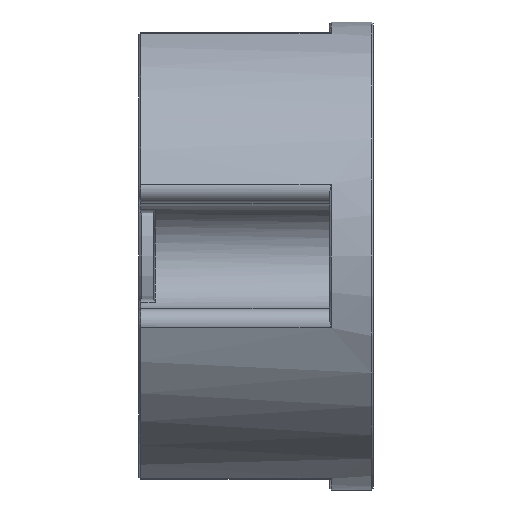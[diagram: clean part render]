
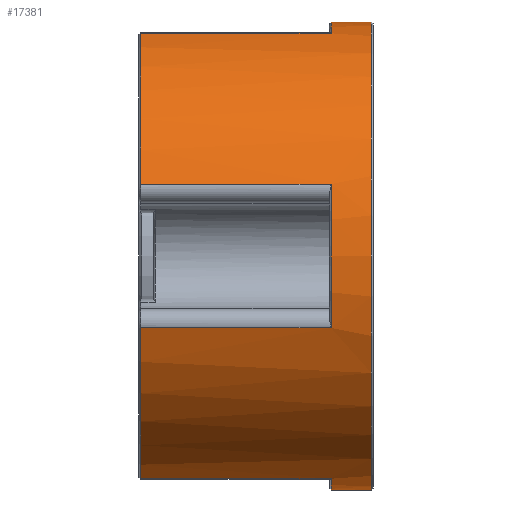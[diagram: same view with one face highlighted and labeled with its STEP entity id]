
A CAD part, left-side view. The second image highlights one B-rep face of the part: STEP entity #17381.
In plain terms, the highlighted cylindrical face has radius 15.975 mm (diameter 31.95 mm), a partial arc.
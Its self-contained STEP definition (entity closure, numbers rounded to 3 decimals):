
#93 = VERTEX_POINT ( 'NONE', #27016 ) ;
#316 = CIRCLE ( 'NONE', #7075, 15.975 ) ;
#610 = ORIENTED_EDGE ( 'NONE', *, *, #28228, .F. ) ;
#728 = CIRCLE ( 'NONE', #32794, 15.975 ) ;
#796 = CARTESIAN_POINT ( 'NONE',  ( 0., -5.125, 15.975 ) ) ;
#990 = ORIENTED_EDGE ( 'NONE', *, *, #17151, .T. ) ;
#1182 = ORIENTED_EDGE ( 'NONE', *, *, #19705, .T. ) ;
#1501 = EDGE_CURVE ( 'NONE', #18475, #11671, #19383, .T. ) ;
#1749 = VERTEX_POINT ( 'NONE', #796 ) ;
#1794 = EDGE_LOOP ( 'NONE', ( #610, #17061, #10400, #22756, #7771, #33290, #17009, #990, #1182, #13954, #4690, #29304 ) ) ;
#2724 = CARTESIAN_POINT ( 'NONE',  ( 0., 8., -15.975 ) ) ;
#2841 = DIRECTION ( 'NONE',  ( 0., 1., 0. ) ) ;
#3064 = VECTOR ( 'NONE', #17752, 1000. ) ;
#3074 = CARTESIAN_POINT ( 'NONE',  ( -15.203, -5.125, -4.907 ) ) ;
#4054 = CARTESIAN_POINT ( 'NONE',  ( -4.907, 8., 15.203 ) ) ;
#4149 = CARTESIAN_POINT ( 'NONE',  ( 0., -7.875, 0. ) ) ;
#4379 = EDGE_CURVE ( 'NONE', #27161, #18475, #15619, .T. ) ;
#4690 = ORIENTED_EDGE ( 'NONE', *, *, #5449, .T. ) ;
#5449 = EDGE_CURVE ( 'NONE', #27279, #5450, #20437, .T. ) ;
#5450 = VERTEX_POINT ( 'NONE', #18529 ) ;
#5714 = CARTESIAN_POINT ( 'NONE',  ( -15.203, 8., -4.907 ) ) ;
#6949 = EDGE_CURVE ( 'NONE', #29026, #27279, #728, .T. ) ;
#7075 = AXIS2_PLACEMENT_3D ( 'NONE', #7845, #10463, #15831 ) ;
#7193 = LINE ( 'NONE', #5714, #10469 ) ;
#7401 = DIRECTION ( 'NONE',  ( 0., -1., 0. ) ) ;
#7632 = AXIS2_PLACEMENT_3D ( 'NONE', #18362, #15843, #23634 ) ;
#7771 = ORIENTED_EDGE ( 'NONE', *, *, #1501, .T. ) ;
#7798 = DIRECTION ( 'NONE',  ( 0., -1., 0. ) ) ;
#7845 = CARTESIAN_POINT ( 'NONE',  ( 0., 7.875, 0. ) ) ;
#8495 = LINE ( 'NONE', #15251, #11346 ) ;
#9181 = DIRECTION ( 'NONE',  ( 0., -1., 0. ) ) ;
#9846 = VECTOR ( 'NONE', #26081, 1000. ) ;
#10321 = LINE ( 'NONE', #4054, #16884 ) ;
#10400 = ORIENTED_EDGE ( 'NONE', *, *, #12028, .T. ) ;
#10463 = DIRECTION ( 'NONE',  ( 0., -1., 0. ) ) ;
#10469 = VECTOR ( 'NONE', #2841, 1000. ) ;
#10697 = EDGE_CURVE ( 'NONE', #11671, #21101, #27114, .T. ) ;
#10772 = CARTESIAN_POINT ( 'NONE',  ( -4.907, -5.125, -15.203 ) ) ;
#10799 = CARTESIAN_POINT ( 'NONE',  ( -15.203, 7.875, -4.907 ) ) ;
#11346 = VECTOR ( 'NONE', #14902, 1000. ) ;
#11473 = DIRECTION ( 'NONE',  ( 0., 0., -1. ) ) ;
#11671 = VERTEX_POINT ( 'NONE', #28362 ) ;
#11922 = CARTESIAN_POINT ( 'NONE',  ( -15.203, 8., 4.907 ) ) ;
#12028 = EDGE_CURVE ( 'NONE', #93, #27161, #10321, .T. ) ;
#13051 = VECTOR ( 'NONE', #7401, 1000. ) ;
#13954 = ORIENTED_EDGE ( 'NONE', *, *, #6949, .T. ) ;
#14217 = DIRECTION ( 'NONE',  ( 0., 1., 0. ) ) ;
#14902 = DIRECTION ( 'NONE',  ( 0., -1., 0. ) ) ;
#15251 = CARTESIAN_POINT ( 'NONE',  ( -4.907, 8., -15.203 ) ) ;
#15266 = CARTESIAN_POINT ( 'NONE',  ( 0., -5.125, 0. ) ) ;
#15540 = LINE ( 'NONE', #23046, #13051 ) ;
#15619 = CIRCLE ( 'NONE', #7632, 15.975 ) ;
#15831 = DIRECTION ( 'NONE',  ( 0., 0., 1. ) ) ;
#15843 = DIRECTION ( 'NONE',  ( 0., -1., 0. ) ) ;
#16884 = VECTOR ( 'NONE', #14217, 1000. ) ;
#16937 = VERTEX_POINT ( 'NONE', #24986 ) ;
#17009 = ORIENTED_EDGE ( 'NONE', *, *, #21637, .T. ) ;
#17061 = ORIENTED_EDGE ( 'NONE', *, *, #17076, .T. ) ;
#17076 = EDGE_CURVE ( 'NONE', #1749, #93, #26121, .T. ) ;
#17151 = EDGE_CURVE ( 'NONE', #22222, #30994, #316, .T. ) ;
#17381 = ADVANCED_FACE ( 'NONE', ( #27699 ), #30984, .T. ) ;
#17752 = DIRECTION ( 'NONE',  ( 0., -1., 0. ) ) ;
#17994 = CARTESIAN_POINT ( 'NONE',  ( -4.907, 7.875, 15.203 ) ) ;
#18183 = CARTESIAN_POINT ( 'NONE',  ( 0., -5.125, 0. ) ) ;
#18321 = CARTESIAN_POINT ( 'NONE',  ( 0., -5.125, -15.975 ) ) ;
#18362 = CARTESIAN_POINT ( 'NONE',  ( 0., 7.875, 0. ) ) ;
#18411 = CARTESIAN_POINT ( 'NONE',  ( 0., -5.125, 0. ) ) ;
#18475 = VERTEX_POINT ( 'NONE', #27422 ) ;
#18529 = CARTESIAN_POINT ( 'NONE',  ( 0., -7.875, -15.975 ) ) ;
#19383 = LINE ( 'NONE', #11922, #3064 ) ;
#19647 = CARTESIAN_POINT ( 'NONE',  ( -4.907, 7.875, -15.203 ) ) ;
#19705 = EDGE_CURVE ( 'NONE', #30994, #29026, #8495, .T. ) ;
#20437 = LINE ( 'NONE', #2724, #9846 ) ;
#21002 = DIRECTION ( 'NONE',  ( 0., 0., 1. ) ) ;
#21101 = VERTEX_POINT ( 'NONE', #3074 ) ;
#21637 = EDGE_CURVE ( 'NONE', #21101, #22222, #7193, .T. ) ;
#22026 = AXIS2_PLACEMENT_3D ( 'NONE', #4149, #22079, #27643 ) ;
#22079 = DIRECTION ( 'NONE',  ( 0., 1., 0. ) ) ;
#22097 = CARTESIAN_POINT ( 'NONE',  ( 0., 8., 0. ) ) ;
#22222 = VERTEX_POINT ( 'NONE', #10799 ) ;
#22756 = ORIENTED_EDGE ( 'NONE', *, *, #4379, .T. ) ;
#23046 = CARTESIAN_POINT ( 'NONE',  ( 0., 8., 15.975 ) ) ;
#23220 = DIRECTION ( 'NONE',  ( 0., 0., 1. ) ) ;
#23634 = DIRECTION ( 'NONE',  ( 0., 0., 1. ) ) ;
#24986 = CARTESIAN_POINT ( 'NONE',  ( 0., -7.875, 15.975 ) ) ;
#26081 = DIRECTION ( 'NONE',  ( 0., -1., 0. ) ) ;
#26121 = CIRCLE ( 'NONE', #32838, 15.975 ) ;
#27016 = CARTESIAN_POINT ( 'NONE',  ( -4.907, -5.125, 15.203 ) ) ;
#27114 = CIRCLE ( 'NONE', #31356, 15.975 ) ;
#27161 = VERTEX_POINT ( 'NONE', #17994 ) ;
#27279 = VERTEX_POINT ( 'NONE', #18321 ) ;
#27422 = CARTESIAN_POINT ( 'NONE',  ( -15.203, 7.875, 4.907 ) ) ;
#27643 = DIRECTION ( 'NONE',  ( 0., 0., 1. ) ) ;
#27699 = FACE_OUTER_BOUND ( 'NONE', #1794, .T. ) ;
#28172 = CIRCLE ( 'NONE', #22026, 15.975 ) ;
#28228 = EDGE_CURVE ( 'NONE', #1749, #16937, #15540, .T. ) ;
#28362 = CARTESIAN_POINT ( 'NONE',  ( -15.203, -5.125, 4.907 ) ) ;
#28870 = DIRECTION ( 'NONE',  ( 0., -1., 0. ) ) ;
#29026 = VERTEX_POINT ( 'NONE', #10772 ) ;
#29304 = ORIENTED_EDGE ( 'NONE', *, *, #30928, .T. ) ;
#30443 = AXIS2_PLACEMENT_3D ( 'NONE', #22097, #9181, #11473 ) ;
#30928 = EDGE_CURVE ( 'NONE', #5450, #16937, #28172, .T. ) ;
#30984 = CYLINDRICAL_SURFACE ( 'NONE', #30443, 15.975 ) ;
#30994 = VERTEX_POINT ( 'NONE', #19647 ) ;
#31356 = AXIS2_PLACEMENT_3D ( 'NONE', #18183, #7798, #23220 ) ;
#32794 = AXIS2_PLACEMENT_3D ( 'NONE', #18411, #28870, #21002 ) ;
#32838 = AXIS2_PLACEMENT_3D ( 'NONE', #15266, #33288, #33745 ) ;
#33288 = DIRECTION ( 'NONE',  ( 0., -1., 0. ) ) ;
#33290 = ORIENTED_EDGE ( 'NONE', *, *, #10697, .T. ) ;
#33745 = DIRECTION ( 'NONE',  ( 0., 0., 1. ) ) ;
